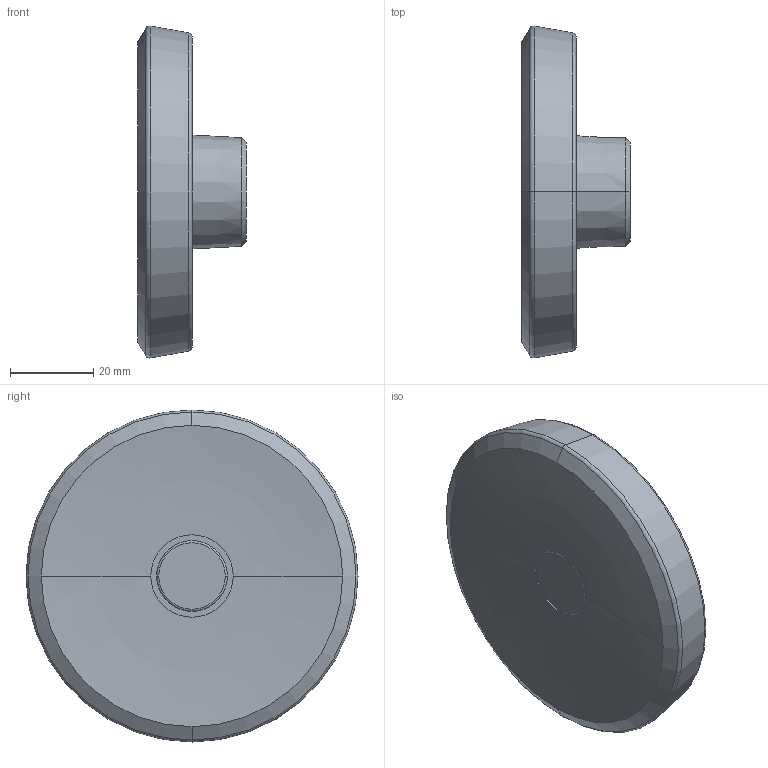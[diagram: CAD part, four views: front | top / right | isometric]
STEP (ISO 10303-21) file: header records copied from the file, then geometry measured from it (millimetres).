
FILE_DESCRIPTION (( 'STEP AP214' ), '1' );
FILE_NAME ('923-80-B12-A-SW.step', '2020-05-27T16:45:29', ( '' ), ( '' ), 'SwSTEP 2.0', 'SolidWorks 2019', '' );
FILE_SCHEMA (( 'AUTOMOTIVE_DESIGN' ));
Length unit declared in the file: millimetre
Products named in the file (1): 923-80-B12-A-SW
Bounding box: 26 x 79.79 x 79.79 mm (x, y, z)
Volume: 36590.9 mm3; surface area: 16589.7 mm2
Topology: 1 solids, 1 shells, 41 faces, 84 edges, 50 vertices
Faces by surface type: torus 14, cone 12, plane 7, cylinder 6, bspline 2
Entity records: 1199 total; most frequent: DIRECTION 226, CARTESIAN_POINT 222, ORIENTED_EDGE 168, AXIS2_PLACEMENT_3D 104, EDGE_CURVE 84, CIRCLE 64, VERTEX_POINT 50, EDGE_LOOP 46
